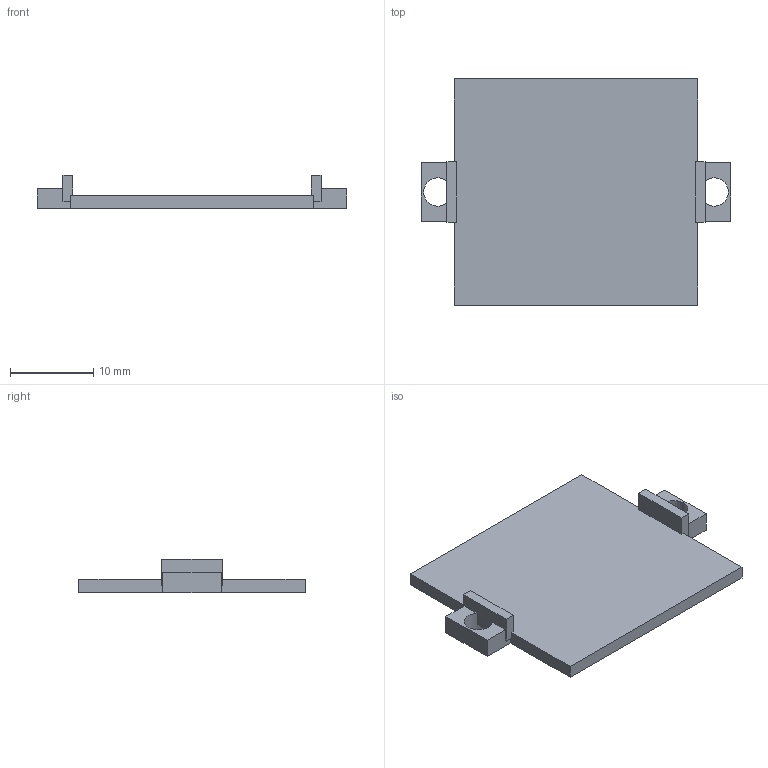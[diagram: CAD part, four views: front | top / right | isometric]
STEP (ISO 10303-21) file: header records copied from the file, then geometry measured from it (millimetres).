
FILE_DESCRIPTION(('FreeCAD Model'),'2;1');
FILE_NAME('Open CASCADE Shape Model','2026-11-20T08:25:38',('FreeCAD'),( 'FreeCAD'),'Open CASCADE STEP processor 7.8','FreeCAD','Unknown');
FILE_SCHEMA(('AUTOMOTIVE_DESIGN { 1 0 10303 214 1 1 1 1 }'));
Length unit declared in the file: millimetre
Products named in the file (1): Open CASCADE STEP translator 7.8 69
Bounding box: 37.2 x 27.2 x 4 mm (x, y, z)
Volume: 1397.3 mm3; surface area: 2017 mm2
Topology: 1 solids, 1 shells, 34 faces, 102 edges, 68 vertices
Faces by surface type: plane 32, cylinder 2
Full cylindrical faces by diameter (mm): 3.4 x2
Entity records: 1152 total; most frequent: CARTESIAN_POINT 205, ORIENTED_EDGE 204, DIRECTION 180, EDGE_CURVE 102, LINE 94, VECTOR 94, VERTEX_POINT 68, AXIS2_PLACEMENT_3D 43
